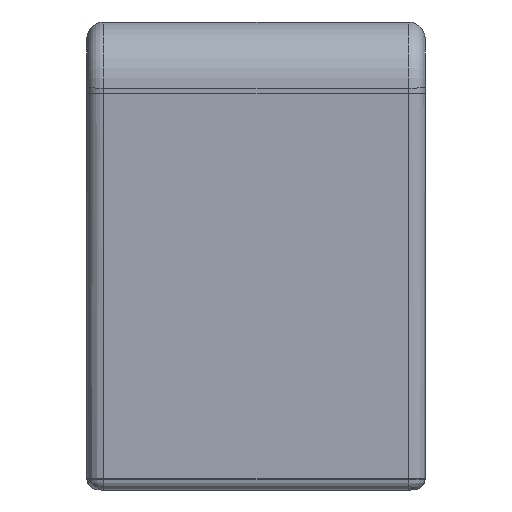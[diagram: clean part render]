
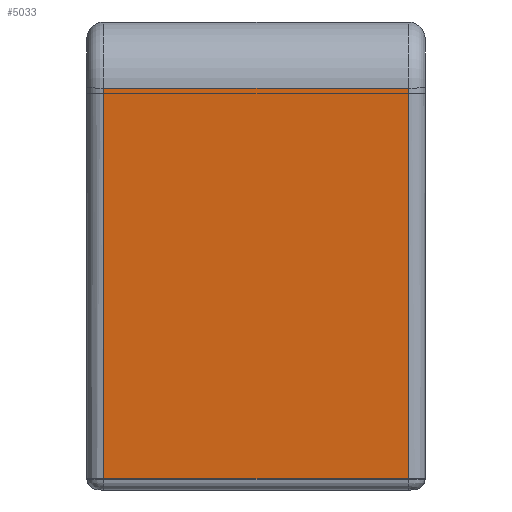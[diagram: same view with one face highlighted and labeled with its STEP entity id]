
A CAD part, left-side view. The second image highlights one B-rep face of the part: STEP entity #5033.
In plain terms, the highlighted planar face has unit normal (-0.998, 0, -0.067).
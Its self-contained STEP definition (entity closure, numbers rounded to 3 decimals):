
#226 = EDGE_CURVE ( 'NONE', #3804, #3792, #826, .T. ) ;
#227 = EDGE_CURVE ( 'NONE', #3792, #3801, #824, .T. ) ;
#228 = EDGE_CURVE ( 'NONE', #3801, #3807, #822, .T. ) ;
#229 = EDGE_CURVE ( 'NONE', #3804, #3807, #820, .T. ) ;
#502 = EDGE_LOOP ( 'NONE', ( #1413, #1414, #1415, #1416 ) ) ;
#818 = VECTOR ( 'NONE', #4344, 1000. ) ;
#820 = LINE ( 'NONE', #4343, #818 ) ;
#821 = VECTOR ( 'NONE', #4342, 1000. ) ;
#822 = LINE ( 'NONE', #4341, #821 ) ;
#823 = VECTOR ( 'NONE', #4340, 1000. ) ;
#824 = LINE ( 'NONE', #4339, #823 ) ;
#825 = VECTOR ( 'NONE', #4338, 1000. ) ;
#826 = LINE ( 'NONE', #4337, #825 ) ;
#1413 = ORIENTED_EDGE ( 'NONE', *, *, #226, .T. ) ;
#1414 = ORIENTED_EDGE ( 'NONE', *, *, #227, .T. ) ;
#1415 = ORIENTED_EDGE ( 'NONE', *, *, #228, .T. ) ;
#1416 = ORIENTED_EDGE ( 'NONE', *, *, #229, .F. ) ;
#2044 = PLANE ( 'NONE',  #2515 ) ;
#2045 = CARTESIAN_POINT ( 'NONE',  ( -443., 15., -7. ) ) ;
#2046 = DIRECTION ( 'NONE',  ( -0.998, 0., -0.067 ) ) ;
#2047 = DIRECTION ( 'NONE',  ( -0.067, 0., 0.998 ) ) ;
#2515 = AXIS2_PLACEMENT_3D ( 'NONE', #2045, #2046, #2047 ) ;
#3284 = FACE_OUTER_BOUND ( 'NONE', #502, .T. ) ;
#3792 = VERTEX_POINT ( 'NONE', #4831 ) ;
#3801 = VERTEX_POINT ( 'NONE', #4840 ) ;
#3804 = VERTEX_POINT ( 'NONE', #4843 ) ;
#3807 = VERTEX_POINT ( 'NONE', #4846 ) ;
#4337 = CARTESIAN_POINT ( 'NONE',  ( -443., 13.5, -7. ) ) ;
#4338 = DIRECTION ( 'NONE',  ( 0.067, 0., -0.998 ) ) ;
#4339 = CARTESIAN_POINT ( 'NONE',  ( -443.063, 15., -6.067 ) ) ;
#4340 = DIRECTION ( 'NONE',  ( 0., -1., 0. ) ) ;
#4341 = CARTESIAN_POINT ( 'NONE',  ( -445.388, -13.5, 28.632 ) ) ;
#4342 = DIRECTION ( 'NONE',  ( -0.067, 0., 0.998 ) ) ;
#4343 = CARTESIAN_POINT ( 'NONE',  ( -445.388, 15., 28.632 ) ) ;
#4344 = DIRECTION ( 'NONE',  ( 0., -1., 0. ) ) ;
#4831 = CARTESIAN_POINT ( 'NONE',  ( -443.063, 13.5, -6.067 ) ) ;
#4840 = CARTESIAN_POINT ( 'NONE',  ( -443.063, -13.5, -6.067 ) ) ;
#4843 = CARTESIAN_POINT ( 'NONE',  ( -445.388, 13.5, 28.632 ) ) ;
#4846 = CARTESIAN_POINT ( 'NONE',  ( -445.388, -13.5, 28.632 ) ) ;
#5033 = ADVANCED_FACE ( 'NONE', ( #3284 ), #2044, .T. ) ;
